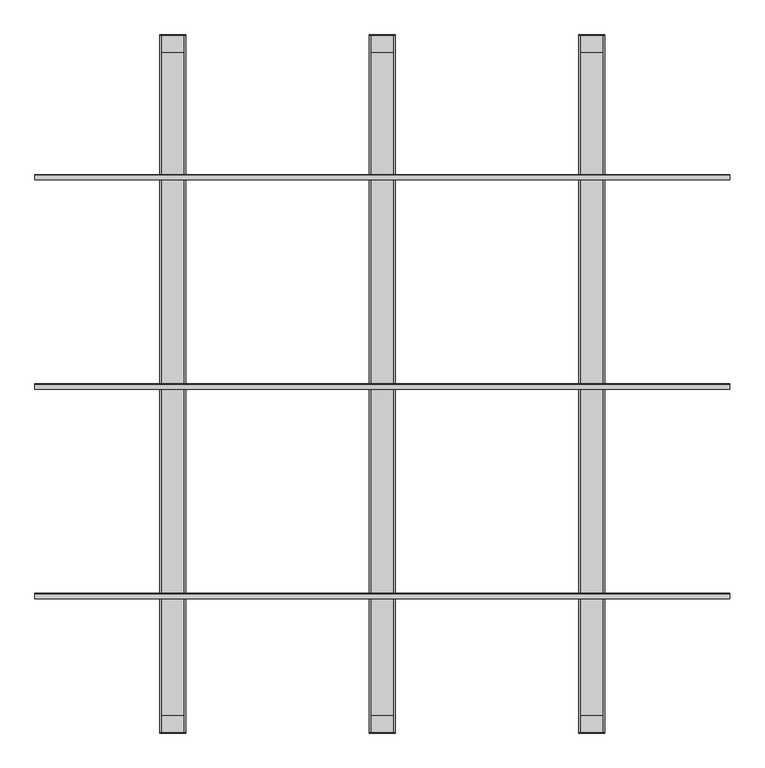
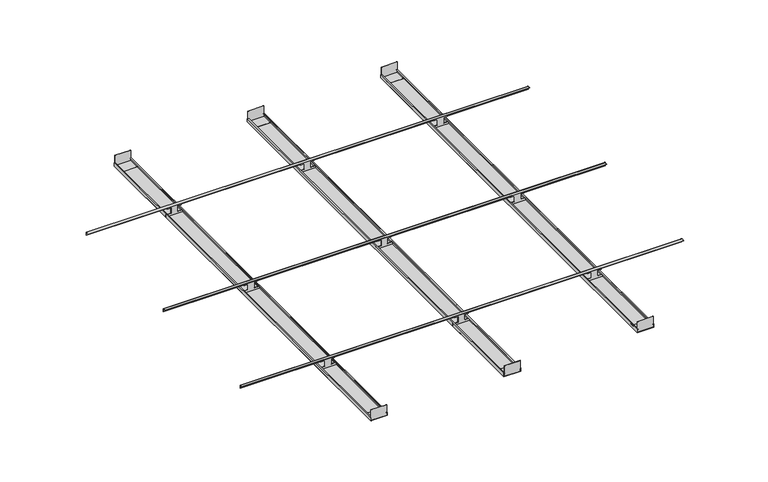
"""IFC4 building model written with IfcOpenShell, lengths in millimetres: proxy geometry, durlum_S5-150 : durlum_S5-150."""

from ifc_helpers import new_model, si_unit, point, frame, frame_2d, origin, place, context, project, spatial, polyline, circle_curve, trimmed, segment, composite_curve, outline, extrude, source, transform, mapped, element, save


def generic_models_7af44e7f(model_context):
    return source(origin(), model_context, "Body", "SweptSolid", [
        extrude(outline(polyline([(72.0, 1900.0), (72.0, 1998.75), (73.25, 1998.75), (73.25, 1900.0), (72.0, 1900.0)])), frame((0.0, 0.0, 2101.4976307), z_axis=(0.0, 0.0, 1.0), x_axis=(1.0, 0.0, 0.0)), (0.0, 0.0, 1.0), 22.9482224),
        extrude(outline(polyline([(-72.0, 1900.0), (-73.25, 1900.0), (-73.25, 1998.75), (-72.0, 1998.75), (-72.0, 1900.0)])), frame((0.0, 0.0, 2101.4976307), z_axis=(0.0, 0.0, 1.0), x_axis=(1.0, 0.0, 0.0)), (0.0, 0.0, 1.0), 22.9482224),
        extrude(outline(polyline([(2000.0, 2101.4976307), (1900.0, 2101.4976307), (1900.0, 2102.7476307), (1998.75, 2102.7476307), (1998.75, 2201.4976307), (2000.0, 2201.4976307), (2000.0, 2101.4976307)])), frame((-72.0, 0.0, 0.0), z_axis=(1.0, 0.0, 0.0), x_axis=(0.0, 1.0, 0.0)), (0.0, 0.0, 1.0), 144.0),
        extrude(outline(polyline([(-72.0, -1900.0), (-72.0, -1998.75), (-73.25, -1998.75), (-73.25, -1900.0), (-72.0, -1900.0)])), frame((0.0, 0.0, 2101.4981533), z_axis=(0.0, 0.0, 1.0), x_axis=(1.0, 0.0, 0.0)), (0.0, 0.0, 1.0), 22.9482224),
        extrude(outline(polyline([(72.0, -1900.0), (73.25, -1900.0), (73.25, -1998.75), (72.0, -1998.75), (72.0, -1900.0)])), frame((0.0, 0.0, 2101.4981533), z_axis=(0.0, 0.0, 1.0), x_axis=(1.0, 0.0, 0.0)), (0.0, 0.0, 1.0), 22.9482224),
        extrude(outline(polyline([(-2000.0, 2101.4981533), (-2000.0, 2201.4981533), (-1998.75, 2201.4981533), (-1998.75, 2102.7481533), (-1900.0, 2102.7481533), (-1900.0, 2101.4981533), (-2000.0, 2101.4981533)])), frame((-72.0, 0.0, 0.0), z_axis=(1.0, 0.0, 0.0), x_axis=(0.0, 1.0, 0.0)), (0.0, 0.0, 1.0), 144.0),
        extrude(outline(polyline([(1128.0, -1900.0), (1128.0, -1998.75), (1126.75, -1998.75), (1126.75, -1900.0), (1128.0, -1900.0)])), frame((0.0, 0.0, 2101.4963067), z_axis=(0.0, 0.0, 1.0), x_axis=(1.0, 0.0, 0.0)), (0.0, 0.0, 1.0), 22.9482224),
        extrude(outline(polyline([(1272.0, -1900.0), (1273.25, -1900.0), (1273.25, -1998.75), (1272.0, -1998.75), (1272.0, -1900.0)])), frame((0.0, 0.0, 2101.4963067), z_axis=(0.0, 0.0, 1.0), x_axis=(1.0, 0.0, 0.0)), (0.0, 0.0, 1.0), 22.9482224),
        extrude(outline(polyline([(-2000.0, 2101.4963067), (-2000.0, 2201.4963067), (-1998.75, 2201.4963067), (-1998.75, 2102.7463067), (-1900.0, 2102.7463067), (-1900.0, 2101.4963067), (-2000.0, 2101.4963067)])), frame((1128.0, 0.0, 0.0), z_axis=(1.0, 0.0, 0.0), x_axis=(0.0, 1.0, 0.0)), (0.0, 0.0, 1.0), 144.0),
        extrude(outline(polyline([(1272.0, 1900.0), (1272.0, 1998.75), (1273.25, 1998.75), (1273.25, 1900.0), (1272.0, 1900.0)])), frame((0.0, 0.0, 2101.4952614), z_axis=(0.0, 0.0, 1.0), x_axis=(1.0, 0.0, 0.0)), (0.0, 0.0, 1.0), 22.9482224),
        extrude(outline(polyline([(1128.0, 1900.0), (1126.75, 1900.0), (1126.75, 1998.75), (1128.0, 1998.75), (1128.0, 1900.0)])), frame((0.0, 0.0, 2101.4952614), z_axis=(0.0, 0.0, 1.0), x_axis=(1.0, 0.0, 0.0)), (0.0, 0.0, 1.0), 22.9482224),
        extrude(outline(polyline([(2000.0, 2101.4952614), (1900.0, 2101.4952614), (1900.0, 2102.7452614), (1998.75, 2102.7452614), (1998.75, 2201.4952614), (2000.0, 2201.4952614), (2000.0, 2101.4952614)])), frame((1128.0, 0.0, 0.0), z_axis=(1.0, 0.0, 0.0), x_axis=(0.0, 1.0, 0.0)), (0.0, 0.0, 1.0), 144.0),
        extrude(outline(polyline([(-1272.0, -1900.0), (-1272.0, -1998.75), (-1273.25, -1998.75), (-1273.25, -1900.0), (-1272.0, -1900.0)])), frame((0.0, 0.0, 2101.5), z_axis=(0.0, 0.0, 1.0), x_axis=(1.0, 0.0, 0.0)), (0.0, 0.0, 1.0), 22.9482224),
        extrude(outline(polyline([(-1128.0, -1900.0), (-1126.75, -1900.0), (-1126.75, -1998.75), (-1128.0, -1998.75), (-1128.0, -1900.0)])), frame((0.0, 0.0, 2101.5), z_axis=(0.0, 0.0, 1.0), x_axis=(1.0, 0.0, 0.0)), (0.0, 0.0, 1.0), 22.9482224),
        extrude(outline(polyline([(-2000.0, 2101.5), (-2000.0, 2201.5), (-1998.75, 2201.5), (-1998.75, 2102.75), (-1900.0, 2102.75), (-1900.0, 2101.5), (-2000.0, 2101.5)])), frame((-1272.0, 0.0, 0.0), z_axis=(1.0, 0.0, 0.0), x_axis=(0.0, 1.0, 0.0)), (0.0, 0.0, 1.0), 144.0),
        extrude(outline(polyline([(-1128.0, 1900.0), (-1128.0, 1998.75), (-1126.75, 1998.75), (-1126.75, 1900.0), (-1128.0, 1900.0)])), frame((0.0, 0.0, 2101.5), z_axis=(0.0, 0.0, 1.0), x_axis=(1.0, 0.0, 0.0)), (0.0, 0.0, 1.0), 22.9482224),
        extrude(outline(polyline([(-1272.0, 1900.0), (-1273.25, 1900.0), (-1273.25, 1998.75), (-1272.0, 1998.75), (-1272.0, 1900.0)])), frame((0.0, 0.0, 2101.5), z_axis=(0.0, 0.0, 1.0), x_axis=(1.0, 0.0, 0.0)), (0.0, 0.0, 1.0), 22.9482224),
        extrude(outline(polyline([(2000.0, 2101.5), (1900.0, 2101.5), (1900.0, 2102.75), (1998.75, 2102.75), (1998.75, 2201.5), (2000.0, 2201.5), (2000.0, 2101.5)])), frame((-1272.0, 0.0, 0.0), z_axis=(1.0, 0.0, 0.0), x_axis=(0.0, 1.0, 0.0)), (0.0, 0.0, 1.0), 144.0),
        extrude(outline(polyline([(2125.0, 73.5823641), (2125.0, 72.3323641), (2120.9590465, 72.3323641), (2120.9590465, 28.0249317), (2172.9865783, 28.0249317), (2172.9865783, 62.346391), (2200.0, 62.346391), (2200.0, -62.346391), (2172.9865783, -62.346391), (2172.9865783, -28.0249317), (2120.9590465, -28.0249317), (2120.9590465, -72.3323641), (2125.0, -72.3323641), (2125.0, -73.5823641), (2100.0, -73.5823641), (2100.0, 73.5823641), (2125.0, 73.5823641)])), frame((0.0, -3.9953756, 0.0), z_axis=(0.0, 1.0, 0.0), x_axis=(0.0, 0.0, 1.0)), (0.0, 0.0, 1.0), 1.9953756),
        extrude(outline(polyline([(2125.0, -1126.4176359), (2125.0, -1127.6676359), (2120.9590465, -1127.6676359), (2120.9590465, -1171.9750683), (2172.9865783, -1171.9750683), (2172.9865783, -1137.653609), (2200.0, -1137.653609), (2200.0, -1262.346391), (2172.9865783, -1262.346391), (2172.9865783, -1228.0249317), (2120.9590465, -1228.0249317), (2120.9590465, -1272.3323641), (2125.0, -1272.3323641), (2125.0, -1273.5823641), (2100.0, -1273.5823641), (2100.0, -1126.4176359), (2125.0, -1126.4176359)])), frame((0.0, -3.9953756, 0.0), z_axis=(0.0, 1.0, 0.0), x_axis=(0.0, 0.0, 1.0)), (0.0, 0.0, 1.0), 1.9953756),
        extrude(outline(polyline([(2125.0, 1273.5823641), (2125.0, 1272.3323641), (2120.9590465, 1272.3323641), (2120.9590465, 1228.0249317), (2172.9865783, 1228.0249317), (2172.9865783, 1262.346391), (2200.0, 1262.346391), (2200.0, 1137.653609), (2172.9865783, 1137.653609), (2172.9865783, 1171.9750683), (2120.9590465, 1171.9750683), (2120.9590465, 1127.6676359), (2125.0, 1127.6676359), (2125.0, 1126.4176359), (2100.0, 1126.4176359), (2100.0, 1273.5823641), (2125.0, 1273.5823641)])), frame((0.0, -3.9953756, 0.0), z_axis=(0.0, 1.0, 0.0), x_axis=(0.0, 0.0, 1.0)), (0.0, 0.0, 1.0), 1.9953756),
        extrude(outline(composite_curve([segment(polyline([(-2.0, 2176.1), (-2.0, 2202.0)]), True, "CONTINUOUS"), segment(trimmed(circle_curve(frame_2d((-4.0, 2202.0)), 2.0), [point((-2.0, 2202.0))], [point((-4.0, 2204.0))], True, "CARTESIAN"), True, "CONTINUOUS"), segment(polyline([(-4.0, 2204.0), (-29.9, 2204.0), (-29.9, 2206.0), (-4.0, 2206.0)]), True, "CONTINUOUS"), segment(trimmed(circle_curve(frame_2d((-4.0, 2202.0)), 4.0), [point((-4.0, 2206.0))], [point((0.0, 2202.0))], False, "CARTESIAN"), True, "CONTINUOUS"), segment(polyline([(0.0, 2202.0), (0.0, 2176.1), (-2.0, 2176.1)]), True, "CONTINUOUS")], self_intersect=False)), frame((-1990.0, 0.0, 0.0), z_axis=(1.0, 0.0, 0.0), x_axis=(0.0, 1.0, 0.0)), (0.0, 0.0, 1.0), 3980.0),
        extrude(outline(polyline([(2125.0, 73.5823641), (2125.0, 72.3323641), (2120.9590465, 72.3323641), (2120.9590465, 28.0249317), (2172.9865783, 28.0249317), (2172.9865783, 62.346391), (2200.0, 62.346391), (2200.0, -62.346391), (2172.9865783, -62.346391), (2172.9865783, -28.0249317), (2120.9590465, -28.0249317), (2120.9590465, -72.3323641), (2125.0, -72.3323641), (2125.0, -73.5823641), (2100.0, -73.5823641), (2100.0, 73.5823641), (2125.0, 73.5823641)])), frame((0.0, -1203.9953756, 0.0), z_axis=(0.0, 1.0, 0.0), x_axis=(0.0, 0.0, 1.0)), (0.0, 0.0, 1.0), 1.9953756),
        extrude(outline(polyline([(2125.0, -1126.4176359), (2125.0, -1127.6676359), (2120.9590465, -1127.6676359), (2120.9590465, -1171.9750683), (2172.9865783, -1171.9750683), (2172.9865783, -1137.653609), (2200.0, -1137.653609), (2200.0, -1262.346391), (2172.9865783, -1262.346391), (2172.9865783, -1228.0249317), (2120.9590465, -1228.0249317), (2120.9590465, -1272.3323641), (2125.0, -1272.3323641), (2125.0, -1273.5823641), (2100.0, -1273.5823641), (2100.0, -1126.4176359), (2125.0, -1126.4176359)])), frame((0.0, -1203.9953756, 0.0), z_axis=(0.0, 1.0, 0.0), x_axis=(0.0, 0.0, 1.0)), (0.0, 0.0, 1.0), 1.9953756),
        extrude(outline(polyline([(2125.0, 1273.5823641), (2125.0, 1272.3323641), (2120.9590465, 1272.3323641), (2120.9590465, 1228.0249317), (2172.9865783, 1228.0249317), (2172.9865783, 1262.346391), (2200.0, 1262.346391), (2200.0, 1137.653609), (2172.9865783, 1137.653609), (2172.9865783, 1171.9750683), (2120.9590465, 1171.9750683), (2120.9590465, 1127.6676359), (2125.0, 1127.6676359), (2125.0, 1126.4176359), (2100.0, 1126.4176359), (2100.0, 1273.5823641), (2125.0, 1273.5823641)])), frame((0.0, -1203.9953756, 0.0), z_axis=(0.0, 1.0, 0.0), x_axis=(0.0, 0.0, 1.0)), (0.0, 0.0, 1.0), 1.9953756),
        extrude(outline(composite_curve([segment(polyline([(-1202.0, 2176.1), (-1202.0, 2202.0)]), True, "CONTINUOUS"), segment(trimmed(circle_curve(frame_2d((-1204.0, 2202.0)), 2.0), [point((-1202.0, 2202.0))], [point((-1204.0, 2204.0))], True, "CARTESIAN"), True, "CONTINUOUS"), segment(polyline([(-1204.0, 2204.0), (-1229.9, 2204.0), (-1229.9, 2206.0), (-1204.0, 2206.0)]), True, "CONTINUOUS"), segment(trimmed(circle_curve(frame_2d((-1204.0, 2202.0)), 4.0), [point((-1204.0, 2206.0))], [point((-1200.0, 2202.0))], False, "CARTESIAN"), True, "CONTINUOUS"), segment(polyline([(-1200.0, 2202.0), (-1200.0, 2176.1), (-1202.0, 2176.1)]), True, "CONTINUOUS")], self_intersect=False)), frame((-1990.0, 0.0, 0.0), z_axis=(1.0, 0.0, 0.0), x_axis=(0.0, 1.0, 0.0)), (0.0, 0.0, 1.0), 3980.0),
        extrude(outline(polyline([(2130.0, -75.0), (2100.0, -75.0), (2100.0, 75.0), (2130.0, 75.0), (2130.0, 65.0), (2129.0, 65.0), (2129.0, 74.0), (2101.0, 74.0), (2101.0, -74.0), (2129.0, -74.0), (2129.0, -65.0), (2130.0, -65.0), (2130.0, -75.0)])), frame((0.0, -2000.0, 0.0), z_axis=(0.0, 1.0, 0.0), x_axis=(0.0, 0.0, 1.0)), (0.0, 0.0, 1.0), 4000.0),
        extrude(outline(polyline([(2130.0, -1275.0), (2100.0, -1275.0), (2100.0, -1125.0), (2130.0, -1125.0), (2130.0, -1135.0), (2129.0, -1135.0), (2129.0, -1126.0), (2101.0, -1126.0), (2101.0, -1274.0), (2129.0, -1274.0), (2129.0, -1265.0), (2130.0, -1265.0), (2130.0, -1275.0)])), frame((0.0, -2000.0, 0.0), z_axis=(0.0, 1.0, 0.0), x_axis=(0.0, 0.0, 1.0)), (0.0, 0.0, 1.0), 4000.0),
        extrude(outline(polyline([(2130.0, 1125.0), (2100.0, 1125.0), (2100.0, 1275.0), (2130.0, 1275.0), (2130.0, 1265.0), (2129.0, 1265.0), (2129.0, 1274.0), (2101.0, 1274.0), (2101.0, 1126.0), (2129.0, 1126.0), (2129.0, 1135.0), (2130.0, 1135.0), (2130.0, 1125.0)])), frame((0.0, -2000.0, 0.0), z_axis=(0.0, 1.0, 0.0), x_axis=(0.0, 0.0, 1.0)), (0.0, 0.0, 1.0), 4000.0),
        extrude(outline(polyline([(2125.0, 73.5823641), (2125.0, 72.3323641), (2120.9590465, 72.3323641), (2120.9590465, 28.0249317), (2172.9865783, 28.0249317), (2172.9865783, 62.346391), (2200.0, 62.346391), (2200.0, -62.346391), (2172.9865783, -62.346391), (2172.9865783, -28.0249317), (2120.9590465, -28.0249317), (2120.9590465, -72.3323641), (2125.0, -72.3323641), (2125.0, -73.5823641), (2100.0, -73.5823641), (2100.0, 73.5823641), (2125.0, 73.5823641)])), frame((0.0, 1196.0046244, 0.0), z_axis=(0.0, 1.0, 0.0), x_axis=(0.0, 0.0, 1.0)), (0.0, 0.0, 1.0), 1.9953756),
        extrude(outline(polyline([(2125.0, -1126.4176359), (2125.0, -1127.6676359), (2120.9590465, -1127.6676359), (2120.9590465, -1171.9750683), (2172.9865783, -1171.9750683), (2172.9865783, -1137.653609), (2200.0, -1137.653609), (2200.0, -1262.346391), (2172.9865783, -1262.346391), (2172.9865783, -1228.0249317), (2120.9590465, -1228.0249317), (2120.9590465, -1272.3323641), (2125.0, -1272.3323641), (2125.0, -1273.5823641), (2100.0, -1273.5823641), (2100.0, -1126.4176359), (2125.0, -1126.4176359)])), frame((0.0, 1196.0046244, 0.0), z_axis=(0.0, 1.0, 0.0), x_axis=(0.0, 0.0, 1.0)), (0.0, 0.0, 1.0), 1.9953756),
        extrude(outline(polyline([(2125.0, 1273.5823641), (2125.0, 1272.3323641), (2120.9590465, 1272.3323641), (2120.9590465, 1228.0249317), (2172.9865783, 1228.0249317), (2172.9865783, 1262.346391), (2200.0, 1262.346391), (2200.0, 1137.653609), (2172.9865783, 1137.653609), (2172.9865783, 1171.9750683), (2120.9590465, 1171.9750683), (2120.9590465, 1127.6676359), (2125.0, 1127.6676359), (2125.0, 1126.4176359), (2100.0, 1126.4176359), (2100.0, 1273.5823641), (2125.0, 1273.5823641)])), frame((0.0, 1196.0046244, 0.0), z_axis=(0.0, 1.0, 0.0), x_axis=(0.0, 0.0, 1.0)), (0.0, 0.0, 1.0), 1.9953756),
        extrude(outline(composite_curve([segment(polyline([(1198.0, 2176.1), (1198.0, 2202.0)]), True, "CONTINUOUS"), segment(trimmed(circle_curve(frame_2d((1196.0, 2202.0)), 2.0), [point((1198.0, 2202.0))], [point((1196.0, 2204.0))], True, "CARTESIAN"), True, "CONTINUOUS"), segment(polyline([(1196.0, 2204.0), (1170.1, 2204.0), (1170.1, 2206.0), (1196.0, 2206.0)]), True, "CONTINUOUS"), segment(trimmed(circle_curve(frame_2d((1196.0, 2202.0)), 4.0), [point((1196.0, 2206.0))], [point((1200.0, 2202.0))], False, "CARTESIAN"), True, "CONTINUOUS"), segment(polyline([(1200.0, 2202.0), (1200.0, 2176.1), (1198.0, 2176.1)]), True, "CONTINUOUS")], self_intersect=False)), frame((-1990.0, 0.0, 0.0), z_axis=(1.0, 0.0, 0.0), x_axis=(0.0, 1.0, 0.0)), (0.0, 0.0, 1.0), 3980.0),
    ])


if __name__ == "__main__":
    model = new_model("IFC4")
    model_context = context("Model", 3, world=origin())
    ifc_project = project(units=[si_unit("LENGTHUNIT", "METRE", prefix="MILLI")], contexts=[model_context])
    site = spatial("IfcSite", under=ifc_project)
    building = spatial("IfcBuilding", under=site)
    placement = place(None, origin())
    generic_models_shape = generic_models_7af44e7f(model_context)
    element("IfcBuildingElementProxy", 1, Name="durlum_S5-150 : durlum_S5-150", ObjectType="durlum_S5-150 : durlum_S5-150", at=placement, inside=building, context=model_context, shape_type="MappedRepresentation", body=[
        mapped(generic_models_shape, transform((0.0, 0.0, 0.0), x_axis=(1.0, 0.0, 0.0), y_axis=(0.0, 1.0, 0.0), z_axis=(0.0, 0.0, 1.0))),
    ])
    save(model, "model.ifc")
